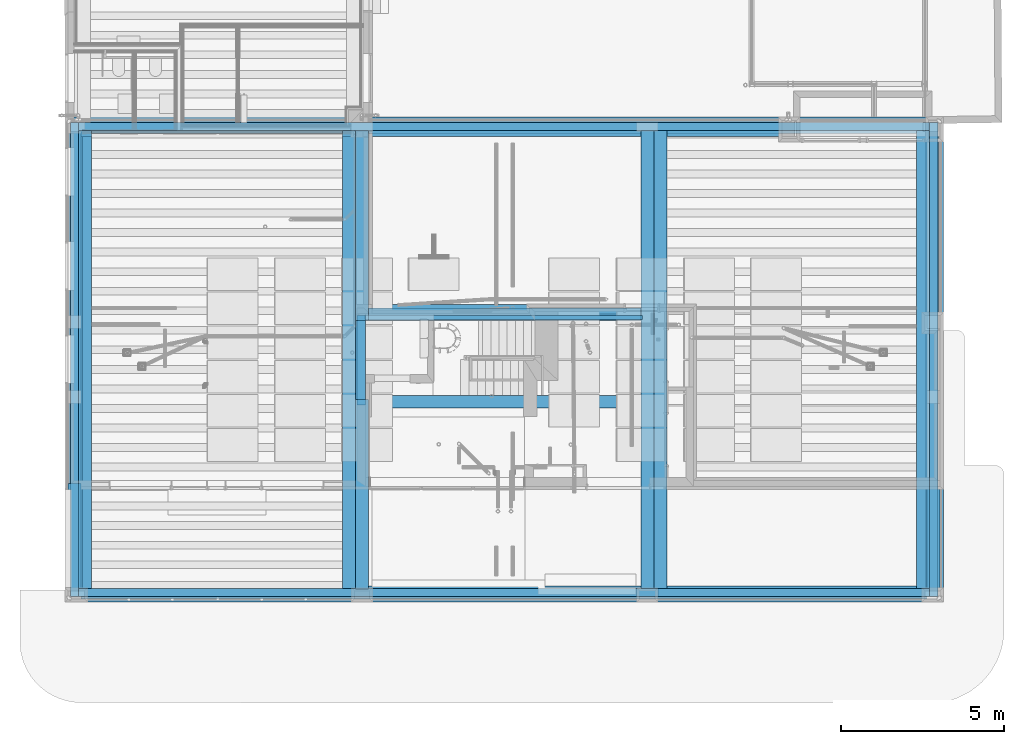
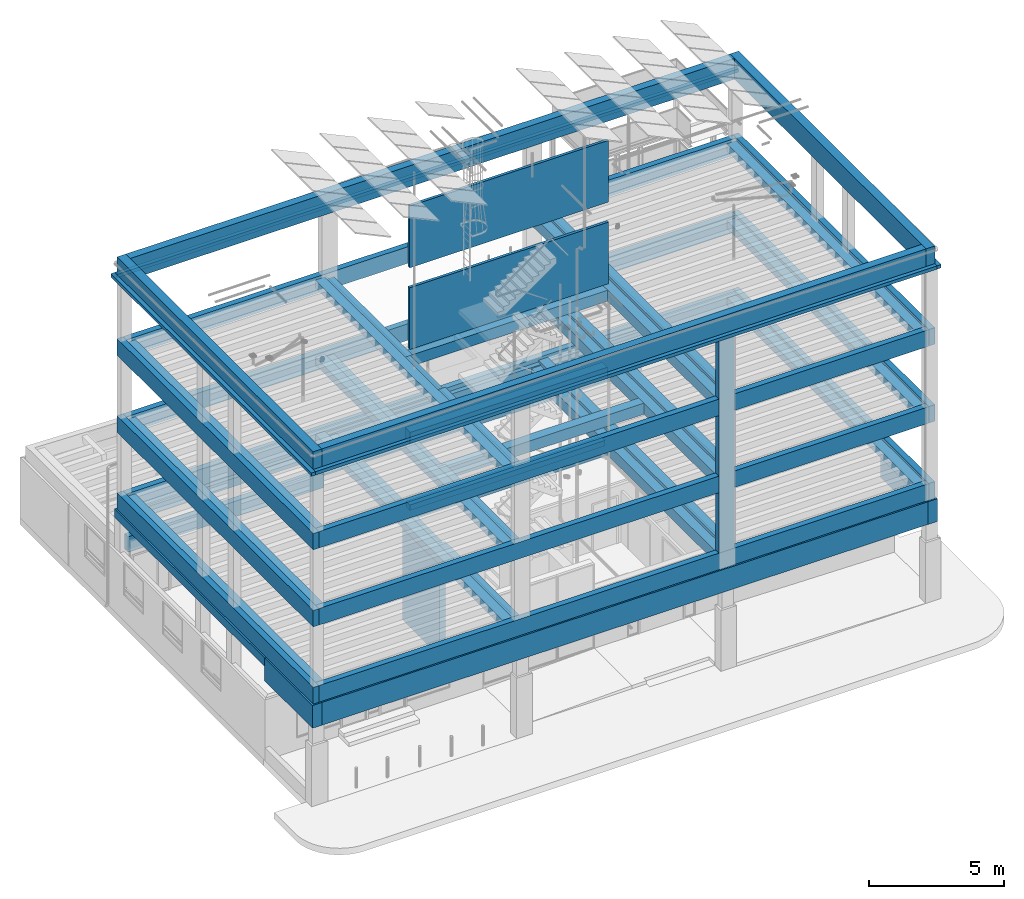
# One storey, part 4 of 106: 59 beams, 1 column.
"""IFC2X3 building model written with IfcOpenShell, lengths in metres."""

from ifc_helpers import new_model, entity, si_unit, converted_unit, derived_unit, money_unit, direction, frame, frame_2d, origin_with_axes, place, context, subcontext, project, spatial, rectangle, extrude, faceted_brep, material, type_object, element, save


model = new_model("IFC2X3")

# Units and contexts
model_context = context("Model", 3, precision=1e-05, world=origin_with_axes(), true_north=direction((0.0, 1.0)))
body_context = subcontext(model_context, "Body", "Model", "MODEL_VIEW", scale=1.0)
ifc_project = project(units=[si_unit("LENGTHUNIT", "METRE"), si_unit("AREAUNIT", "SQUARE_METRE"), si_unit("VOLUMEUNIT", "CUBIC_METRE"), si_unit("ABSORBEDDOSEUNIT", "GRAY"), si_unit("AMOUNTOFSUBSTANCEUNIT", "MOLE"), si_unit("DOSEEQUIVALENTUNIT", "SIEVERT"), si_unit("ELECTRICCAPACITANCEUNIT", "FARAD"), si_unit("ELECTRICCHARGEUNIT", "COULOMB"), si_unit("ELECTRICCONDUCTANCEUNIT", "SIEMENS"), si_unit("ELECTRICCURRENTUNIT", "AMPERE"), si_unit("ELECTRICRESISTANCEUNIT", "OHM"), si_unit("ELECTRICVOLTAGEUNIT", "VOLT"), si_unit("ENERGYUNIT", "JOULE"), si_unit("FORCEUNIT", "NEWTON"), si_unit("FREQUENCYUNIT", "HERTZ"), si_unit("ILLUMINANCEUNIT", "LUX"), si_unit("INDUCTANCEUNIT", "HENRY"), si_unit("LUMINOUSFLUXUNIT", "LUMEN"), si_unit("LUMINOUSINTENSITYUNIT", "CANDELA"), si_unit("MAGNETICFLUXDENSITYUNIT", "TESLA"), si_unit("MAGNETICFLUXUNIT", "WEBER"), si_unit("MASSUNIT", "GRAM"), converted_unit("PLANEANGLEUNIT", "degree", entity("IfcReal", 0.0174532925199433), si_unit("PLANEANGLEUNIT", "RADIAN"), dimensions=[0, 0, 0, 0, 0, 0, 0]), si_unit("POWERUNIT", "WATT"), si_unit("PRESSUREUNIT", "PASCAL"), si_unit("RADIOACTIVITYUNIT", "BECQUEREL"), si_unit("SOLIDANGLEUNIT", "STERADIAN"), si_unit("THERMODYNAMICTEMPERATUREUNIT", "KELVIN"), si_unit("TIMEUNIT", "SECOND"), derived_unit("ACCELERATIONUNIT", [(si_unit("LENGTHUNIT", "METRE"), 1), (si_unit("TIMEUNIT", "SECOND"), -2)]), derived_unit("ANGULARVELOCITYUNIT", [(converted_unit("PLANEANGLEUNIT", "degree", entity("IfcReal", 0.0174532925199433), si_unit("PLANEANGLEUNIT", "RADIAN"), dimensions=[0, 0, 0, 0, 0, 0, 0]), 1), (si_unit("TIMEUNIT", "SECOND"), -1)]), derived_unit("CURVATUREUNIT", [(converted_unit("PLANEANGLEUNIT", "degree", entity("IfcReal", 0.0174532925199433), si_unit("PLANEANGLEUNIT", "RADIAN"), dimensions=[0, 0, 0, 0, 0, 0, 0]), 1), (si_unit("LENGTHUNIT", "METRE"), -1)]), derived_unit("DYNAMICVISCOSITYUNIT", [(si_unit("PRESSUREUNIT", "PASCAL"), 1), (si_unit("TIMEUNIT", "SECOND"), 1)]), derived_unit("HEATFLUXDENSITYUNIT", [(si_unit("POWERUNIT", "WATT"), 1), (si_unit("LENGTHUNIT", "METRE"), -2)]), derived_unit("HEATINGVALUEUNIT", [(si_unit("ENERGYUNIT", "JOULE"), 1), (si_unit("MASSUNIT", "GRAM"), -1)]), derived_unit("INTEGERCOUNTRATEUNIT", [(si_unit("TIMEUNIT", "SECOND"), -1)]), derived_unit("IONCONCENTRATIONUNIT", [(si_unit("MASSUNIT", "GRAM"), 1), (si_unit("VOLUMEUNIT", "CUBIC_METRE"), -1)]), derived_unit("ISOTHERMALMOISTURECAPACITYUNIT", [(si_unit("VOLUMEUNIT", "CUBIC_METRE"), 1), (si_unit("MASSUNIT", "GRAM"), -1)]), derived_unit("KINEMATICVISCOSITYUNIT", [(si_unit("AREAUNIT", "SQUARE_METRE"), 1), (si_unit("TIMEUNIT", "SECOND"), -1)]), derived_unit("LINEARFORCEUNIT", [(si_unit("FORCEUNIT", "NEWTON"), 1), (si_unit("LENGTHUNIT", "METRE"), -1)]), derived_unit("LINEARMOMENTUNIT", [(si_unit("FORCEUNIT", "NEWTON"), 1), (si_unit("LENGTHUNIT", "METRE"), -1)]), derived_unit("LINEARSTIFFNESSUNIT", [(si_unit("FORCEUNIT", "NEWTON"), 1), (si_unit("LENGTHUNIT", "METRE"), -1)]), derived_unit("LINEARVELOCITYUNIT", [(si_unit("LENGTHUNIT", "METRE"), 1), (si_unit("TIMEUNIT", "SECOND"), -1)]), derived_unit("LUMINOUSINTENSITYDISTRIBUTIONUNIT", [(si_unit("LUMINOUSINTENSITYUNIT", "CANDELA"), 1), (si_unit("LUMINOUSFLUXUNIT", "LUMEN"), -1)]), derived_unit("MASSDENSITYUNIT", [(si_unit("MASSUNIT", "GRAM"), 1), (si_unit("VOLUMEUNIT", "CUBIC_METRE"), -1)]), derived_unit("MASSFLOWRATEUNIT", [(si_unit("MASSUNIT", "GRAM"), 1), (si_unit("TIMEUNIT", "SECOND"), -1)]), derived_unit("MASSPERLENGTHUNIT", [(si_unit("MASSUNIT", "GRAM"), 1), (si_unit("LENGTHUNIT", "METRE"), -1)]), derived_unit("MODULUSOFELASTICITYUNIT", [(si_unit("FORCEUNIT", "NEWTON"), 1), (si_unit("AREAUNIT", "SQUARE_METRE"), -1)]), derived_unit("MODULUSOFLINEARSUBGRADEREACTIONUNIT", [(si_unit("FORCEUNIT", "NEWTON"), 1), (si_unit("LENGTHUNIT", "METRE"), -2)]), derived_unit("MODULUSOFROTATIONALSUBGRADEREACTIONUNIT", [(si_unit("FORCEUNIT", "NEWTON"), 1), (si_unit("LENGTHUNIT", "METRE"), 1)]), derived_unit("MODULUSOFSUBGRADEREACTIONUNIT", [(si_unit("FORCEUNIT", "NEWTON"), 1), (si_unit("VOLUMEUNIT", "CUBIC_METRE"), -1)]), derived_unit("MOISTUREDIFFUSIVITYUNIT", [(si_unit("VOLUMEUNIT", "CUBIC_METRE"), 1), (si_unit("TIMEUNIT", "SECOND"), -1)]), derived_unit("MOLECULARWEIGHTUNIT", [(si_unit("MASSUNIT", "GRAM"), 1), (si_unit("AMOUNTOFSUBSTANCEUNIT", "MOLE"), -1)]), derived_unit("PLANARFORCEUNIT", [(si_unit("FORCEUNIT", "NEWTON"), 1), (si_unit("LENGTHUNIT", "METRE"), -2)]), derived_unit("ROTATIONALFREQUENCYUNIT", [(si_unit("TIMEUNIT", "SECOND"), -1)]), derived_unit("ROTATIONALMASSUNIT", [(si_unit("MASSUNIT", "GRAM"), 1), (si_unit("LENGTHUNIT", "METRE"), 2)]), derived_unit("ROTATIONALSTIFFNESSUNIT", [(si_unit("FORCEUNIT", "NEWTON"), 1), (si_unit("LENGTHUNIT", "METRE"), 1), (converted_unit("PLANEANGLEUNIT", "degree", entity("IfcReal", 0.0174532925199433), si_unit("PLANEANGLEUNIT", "RADIAN"), dimensions=[0, 0, 0, 0, 0, 0, 0]), -1)]), derived_unit("SECTIONAREAINTEGRALUNIT", [(si_unit("LENGTHUNIT", "METRE"), 5)]), derived_unit("SECTIONMODULUSUNIT", [(si_unit("LENGTHUNIT", "METRE"), 3)]), derived_unit("SHEARMODULUSUNIT", [(si_unit("FORCEUNIT", "NEWTON"), 1), (si_unit("AREAUNIT", "SQUARE_METRE"), -1)]), derived_unit("SOUNDPOWERUNIT", [(si_unit("ENERGYUNIT", "JOULE"), 1), (si_unit("TIMEUNIT", "SECOND"), -1)]), derived_unit("SPECIFICHEATCAPACITYUNIT", [(si_unit("FORCEUNIT", "NEWTON"), 1), (si_unit("MASSUNIT", "GRAM"), -1), (si_unit("THERMODYNAMICTEMPERATUREUNIT", "KELVIN"), -1)]), derived_unit("TEMPERATUREGRADIENTUNIT", [(si_unit("THERMODYNAMICTEMPERATUREUNIT", "KELVIN"), 1), (si_unit("LENGTHUNIT", "METRE"), -1)]), derived_unit("THERMALADMITTANCEUNIT", [(si_unit("POWERUNIT", "WATT"), 1), (si_unit("AREAUNIT", "SQUARE_METRE"), -1), (si_unit("THERMODYNAMICTEMPERATUREUNIT", "KELVIN"), -1)]), derived_unit("THERMALCONDUCTANCEUNIT", [(si_unit("POWERUNIT", "WATT"), 1), (si_unit("LENGTHUNIT", "METRE"), -1), (si_unit("THERMODYNAMICTEMPERATUREUNIT", "KELVIN"), -1)]), derived_unit("THERMALEXPANSIONCOEFFICIENTUNIT", [(si_unit("THERMODYNAMICTEMPERATUREUNIT", "KELVIN"), -1)]), derived_unit("THERMALRESISTANCEUNIT", [(si_unit("AREAUNIT", "SQUARE_METRE"), 1), (si_unit("POWERUNIT", "WATT"), -1)]), derived_unit("THERMALTRANSMITTANCEUNIT", [(si_unit("POWERUNIT", "WATT"), 1), (si_unit("AREAUNIT", "SQUARE_METRE"), -1), (si_unit("THERMODYNAMICTEMPERATUREUNIT", "KELVIN"), -1)]), derived_unit("TORQUEUNIT", [(si_unit("FORCEUNIT", "NEWTON"), 1), (si_unit("LENGTHUNIT", "METRE"), 1)]), derived_unit("VAPORPERMEABILITYUNIT", [(si_unit("MASSUNIT", "GRAM"), 1), (si_unit("TIMEUNIT", "SECOND"), -1)]), derived_unit("VOLUMETRICFLOWRATEUNIT", [(si_unit("VOLUMEUNIT", "CUBIC_METRE"), 1), (si_unit("TIMEUNIT", "SECOND"), -1)]), derived_unit("WARPINGCONSTANTUNIT", [(si_unit("LENGTHUNIT", "METRE"), 6)]), derived_unit("WARPINGMOMENTUNIT", [(si_unit("FORCEUNIT", "NEWTON"), 1), (si_unit("LENGTHUNIT", "METRE"), 2)]), money_unit("GBP")], contexts=[model_context])

# Site, building, storey
site_placement = place(None, origin_with_axes())
site = spatial("IfcSite", under=ifc_project, at=site_placement, Name="Site", CompositionType="ELEMENT")
building_placement = place(site_placement, origin_with_axes())
building = spatial("IfcBuilding", under=site, at=building_placement, Name="Building01", CompositionType="ELEMENT")
storey_placement = place(building_placement, origin_with_axes())
storey = spatial("IfcBuildingStorey", under=building, at=storey_placement, Name="GF", CompositionType="ELEMENT", Elevation=0.0)

# Column
ifc_material_1 = material(Name="A_BSUK_Columns_ReinforcedConcrete")
column_type = type_object("IfcColumnType", Name="A-Columns-Concrete", PredefinedType="COLUMN")
column_placement = place(storey_placement, frame((18.22, 0.4, 5.1), z_axis=(0.0, 0.0, 1.0), x_axis=(-1.0, 0.0, 0.0)))
element("IfcColumn", 1, at=column_placement, inside=storey, type_object=column_type, material=ifc_material_1, Name="A-Columns-Concrete", ObjectType="A-Columns-Concrete", context=body_context, shape_type="Brep", body=[
    faceted_brep([(0.67, 0.0, 0.0), (0.67, 0.0, 9.73), (0.0, 0.0, 9.73), (0.0, 0.0, 0.0), (0.67, 0.23, 0.0), (0.67, 0.23, 9.73), (0.0, 0.23, 0.0), (0.0, 0.23, 9.73)], [[[0, 1, 2, 3]], [[4, 5, 1, 0]], [[6, 7, 5, 4]], [[3, 2, 7, 6]], [[1, 5, 7, 2]], [[3, 6, 4, 0]]]),
])

# Beams
ifc_material_2 = material(Name="S_BSUK_Beams_PrecastConcrete")
beam_type_1 = type_object("IfcBeamType", Name="S-Beams-PrecastConcrete", PredefinedType="BEAM")
beam_1_placement = place(storey_placement, frame((17.685, 14.48, 11.33), z_axis=(0.0, -1.0, 0.0), x_axis=(1.0, 0.0, 0.0)))
element("IfcBeam", 2, at=beam_1_placement, inside=storey, type_object=beam_type_1, material=ifc_material_2, Name="S-Beams-PrecastConcrete", ObjectType="S-Beams-PrecastConcrete", context=body_context, shape_type="SweptSolid", body=[
    extrude(rectangle(XDim=0.5, YDim=0.4, at=frame_2d((0.2, 0.25), x_axis=(0.0, 1.0))), origin_with_axes(), (0.0, 0.0, 1.0), 14.06),
])
beam_2_placement = place(storey_placement, frame((8.925, 14.48, 11.33), z_axis=(0.0, -1.0, 0.0), x_axis=(1.0, 0.0, 0.0)))
element("IfcBeam", 3, at=beam_2_placement, inside=storey, type_object=beam_type_1, material=ifc_material_2, Name="S-Beams-PrecastConcrete", ObjectType="S-Beams-PrecastConcrete", context=body_context, shape_type="SweptSolid", body=[
    extrude(rectangle(XDim=0.5, YDim=0.4, at=frame_2d((0.2, 0.25), x_axis=(0.0, 1.0))), origin_with_axes(), (0.0, 0.0, 1.0), 5.829897),
])
beam_3_placement = place(storey_placement, frame((0.1, 14.8, 3.97), z_axis=(0.0, -1.0, 0.0), x_axis=(1.0, 0.0, 0.0)))
element("IfcBeam", 4, at=beam_3_placement, inside=storey, type_object=beam_type_1, material=ifc_material_2, Name="S-Beams-PrecastConcrete", ObjectType="S-Beams-PrecastConcrete", context=body_context, shape_type="SweptSolid", body=[
    extrude(rectangle(XDim=0.38, YDim=0.4, at=frame_2d((0.2, 0.19), x_axis=(0.0, 1.0))), origin_with_axes(), (0.0, 0.0, 1.0), 11.153538),
])
beam_4_placement = place(storey_placement, frame((22.41, 14.799999, 3.1), z_axis=(-1.0, 0.0, 0.0), x_axis=(0.0, -1.0, 0.0)))
element("IfcBeam", 5, at=beam_4_placement, inside=storey, type_object=beam_type_1, material=ifc_material_2, Name="S-Beams-PrecastConcrete", ObjectType="S-Beams-PrecastConcrete", context=body_context, shape_type="SweptSolid", body=[
    extrude(rectangle(XDim=1.8, YDim=0.5, at=frame_2d((0.25, 0.9), x_axis=(0.0, 1.0))), origin_with_axes(), (0.0, 0.0, 1.0), 13.62),
])
beam_5_placement = place(storey_placement, frame((0.1, 3.646462, 3.32), z_axis=(0.0, -1.0, 0.0), x_axis=(1.0, 0.0, 0.0)))
element("IfcBeam", 6, at=beam_5_placement, inside=storey, type_object=beam_type_1, material=ifc_material_2, Name="S-Beams-PrecastConcrete", ObjectType="S-Beams-PrecastConcrete", context=body_context, shape_type="SweptSolid", body=[
    extrude(rectangle(XDim=1.03, YDim=0.4, at=frame_2d((0.2, 0.515), x_axis=(0.0, 1.0))), origin_with_axes(), (0.0, 0.0, 1.0), 3.546462),
])
beam_6_placement = place(storey_placement, frame((0.5, 0.1, 3.32), z_axis=(1.0, 0.0, 0.0), x_axis=(0.0, 1.0, 0.0)))
element("IfcBeam", 7, at=beam_6_placement, inside=storey, type_object=beam_type_1, material=ifc_material_2, Name="S-Beams-PrecastConcrete", ObjectType="S-Beams-PrecastConcrete", context=body_context, shape_type="SweptSolid", body=[
    extrude(rectangle(XDim=1.03, YDim=0.3, at=frame_2d((0.15, 0.515), x_axis=(0.0, 1.0))), origin_with_axes(), (0.0, 0.0, 1.0), 25.98),
])
beam_7_placement = place(storey_placement, frame((26.48, 3.646462, 3.32), z_axis=(0.0, -1.0, 0.0), x_axis=(1.0, 0.0, 0.0)))
element("IfcBeam", 8, at=beam_7_placement, inside=storey, type_object=beam_type_1, material=ifc_material_2, Name="S-Beams-PrecastConcrete", ObjectType="S-Beams-PrecastConcrete", context=body_context, shape_type="SweptSolid", body=[
    extrude(rectangle(XDim=1.03, YDim=0.4, at=frame_2d((0.2, 0.515), x_axis=(0.0, 1.0))), origin_with_axes(), (0.0, 0.0, 1.0), 3.546462),
])
beam_8_placement = place(storey_placement, frame((8.79, 14.799999, 3.97), z_axis=(-1.0, 0.0, 0.0), x_axis=(0.0, -1.0, 0.0)))
element("IfcBeam", 9, at=beam_8_placement, inside=storey, type_object=beam_type_1, material=ifc_material_2, Name="S-Beams-PrecastConcrete", ObjectType="S-Beams-PrecastConcrete", context=body_context, shape_type="SweptSolid", body=[
    extrude(rectangle(XDim=0.38, YDim=0.5, at=frame_2d((0.25, 0.19), x_axis=(0.0, 1.0))), origin_with_axes(), (0.0, 0.0, 1.0), 8.29),
])
beam_9_placement = place(storey_placement, frame((9.325, 8.847854, 4.65), z_axis=(1.0, 0.0, 0.0), x_axis=(0.0, 1.0, 0.0)))
element("IfcBeam", 10, at=beam_9_placement, inside=storey, type_object=beam_type_1, material=ifc_material_2, Name="S-Beams-PrecastConcrete", ObjectType="S-Beams-PrecastConcrete", context=body_context, shape_type="SweptSolid", body=[
    extrude(rectangle(XDim=0.25, YDim=0.3, at=frame_2d((0.15, 0.125), x_axis=(0.0, 1.0))), origin_with_axes(), (0.0, 0.0, 1.0), 8.36),
])
beam_10_placement = place(storey_placement, frame((8.903038, 14.73, 2.435), z_axis=(-1.0, 0.0, 0.0), x_axis=(0.0, -1.0, 0.0)))
element("IfcBeam", 11, at=beam_10_placement, inside=storey, type_object=beam_type_1, material=ifc_material_2, Name="S-Beams-PrecastConcrete", ObjectType="S-Beams-PrecastConcrete", context=body_context, shape_type="SweptSolid", body=[
    extrude(rectangle(XDim=0.7, YDim=0.25, at=frame_2d((0.125, 0.35), x_axis=(0.0, 1.0))), origin_with_axes(), (0.0, 0.0, 1.0), 8.403038),
])
for number, where, z_axis, x_axis, name in (
    (12, (0.42, 14.48, 4.64), (0.0, -1.0, 0.0), (1.0, 0.0, 0.0), "S-Beams-PrecastConcrete"),
    (13, (8.525, 14.48, 4.64), (0.0, -1.0, 0.0), (1.0, 0.0, 0.0), "S-Beams-PrecastConcrete"),
):
    element("IfcBeam", number, at=place(storey_placement, frame(where, z_axis=z_axis, x_axis=x_axis)), inside=storey, type_object=beam_type_1, material=ifc_material_2, Name=name, ObjectType="S-Beams-PrecastConcrete", context=body_context, shape_type="SweptSolid", body=[
        extrude(rectangle(XDim=0.34, YDim=0.4, at=frame_2d((0.2, 0.17), x_axis=(0.0, 1.0))), origin_with_axes(), (0.0, 0.0, 1.0), 14.06),
    ])
beam_11_placement = place(storey_placement, frame((26.44, 14.73, 14.83), z_axis=(-1.0, 0.0, 0.0), x_axis=(0.0, -1.0, 0.0)))
element("IfcBeam", 14, at=beam_11_placement, inside=storey, type_object=beam_type_1, material=ifc_material_2, Name="S-Beams-PrecastConcrete", ObjectType="S-Beams-PrecastConcrete", context=body_context, shape_type="SweptSolid", body=[
    extrude(rectangle(XDim=0.95, YDim=0.33, at=frame_2d((0.165, 0.475), x_axis=(0.0, 1.0))), origin_with_axes(), (0.0, 0.0, 1.0), 25.9),
])
beam_12_placement = place(storey_placement, frame((26.44, 14.73, 14.83), z_axis=(0.0, -1.0, 0.0), x_axis=(1.0, 0.0, 0.0)))
element("IfcBeam", 15, at=beam_12_placement, inside=storey, type_object=beam_type_1, material=ifc_material_2, Name="S-Beams-PrecastConcrete", ObjectType="S-Beams-PrecastConcrete", context=body_context, shape_type="SweptSolid", body=[
    extrude(rectangle(XDim=0.95, YDim=0.37, at=frame_2d((0.185, 0.475), x_axis=(0.0, 1.0))), origin_with_axes(), (0.0, 0.0, 1.0), 14.56),
])
beam_13_placement = place(storey_placement, frame((26.44, 0.5, 14.83), z_axis=(-1.0, 0.0, 0.0), x_axis=(0.0, -1.0, 0.0)))
element("IfcBeam", 16, at=beam_13_placement, inside=storey, type_object=beam_type_1, material=ifc_material_2, Name="S-Beams-PrecastConcrete", ObjectType="S-Beams-PrecastConcrete", context=body_context, shape_type="SweptSolid", body=[
    extrude(rectangle(XDim=0.95, YDim=0.33, at=frame_2d((0.165, 0.475), x_axis=(0.0, 1.0))), origin_with_axes(), (0.0, 0.0, 1.0), 25.9),
])
beam_14_placement = place(storey_placement, frame((0.17, 14.73, 14.83), z_axis=(0.0, -1.0, 0.0), x_axis=(1.0, 0.0, 0.0)))
element("IfcBeam", 17, at=beam_14_placement, inside=storey, type_object=beam_type_1, material=ifc_material_2, Name="S-Beams-PrecastConcrete", ObjectType="S-Beams-PrecastConcrete", context=body_context, shape_type="SweptSolid", body=[
    extrude(rectangle(XDim=0.95, YDim=0.37, at=frame_2d((0.185, 0.475), x_axis=(0.0, 1.0))), origin_with_axes(), (0.0, 0.0, 1.0), 14.56),
])
beam_15_placement = place(storey_placement, frame((17.685, 9.04, 11.33), z_axis=(-1.0, 0.0, 0.0), x_axis=(0.0, -1.0, 0.0)))
element("IfcBeam", 18, at=beam_15_placement, inside=storey, type_object=beam_type_1, material=ifc_material_2, Name="S-Beams-PrecastConcrete", ObjectType="S-Beams-PrecastConcrete", context=body_context, shape_type="SweptSolid", body=[
    extrude(rectangle(XDim=0.5, YDim=0.39, at=frame_2d((0.195, 0.25), x_axis=(0.0, 1.0))), origin_with_axes(), (0.0, 0.0, 1.0), 8.46),
])
beam_16_placement = place(storey_placement, frame((8.925, 6.229897, 11.33), z_axis=(0.0, -1.0, 0.0), x_axis=(1.0, 0.0, 0.0)))
element("IfcBeam", 19, at=beam_16_placement, inside=storey, type_object=beam_type_1, material=ifc_material_2, Name="S-Beams-PrecastConcrete", ObjectType="S-Beams-PrecastConcrete", context=body_context, shape_type="SweptSolid", body=[
    extrude(rectangle(XDim=0.5, YDim=0.4, at=frame_2d((0.2, 0.25), x_axis=(0.0, 1.0))), origin_with_axes(), (0.0, 0.0, 1.0), 5.829897),
])
beam_17_placement = place(storey_placement, frame((8.925, 8.650103, 11.33), z_axis=(0.0, -1.0, 0.0), x_axis=(1.0, 0.0, 0.0)))
element("IfcBeam", 20, at=beam_17_placement, inside=storey, type_object=beam_type_1, material=ifc_material_2, Name="S-Beams-PrecastConcrete", ObjectType="S-Beams-PrecastConcrete", context=body_context, shape_type="SweptSolid", body=[
    extrude(rectangle(XDim=0.5, YDim=0.3, at=frame_2d((0.15, 0.25), x_axis=(0.0, 1.0))), origin_with_axes(), (0.0, 0.0, 1.0), 2.420206),
])
beam_18_placement = place(storey_placement, frame((8.925, 14.48, 7.84), z_axis=(0.0, -1.0, 0.0), x_axis=(1.0, 0.0, 0.0)))
element("IfcBeam", 21, at=beam_18_placement, inside=storey, type_object=beam_type_1, material=ifc_material_2, Name="S-Beams-PrecastConcrete", ObjectType="S-Beams-PrecastConcrete", context=body_context, shape_type="SweptSolid", body=[
    extrude(rectangle(XDim=0.5, YDim=0.4, at=frame_2d((0.2, 0.25), x_axis=(0.0, 1.0))), origin_with_axes(), (0.0, 0.0, 1.0), 5.829897),
])
beam_19_placement = place(storey_placement, frame((8.925, 8.650103, 7.84), z_axis=(0.0, -1.0, 0.0), x_axis=(1.0, 0.0, 0.0)))
element("IfcBeam", 22, at=beam_19_placement, inside=storey, type_object=beam_type_1, material=ifc_material_2, Name="S-Beams-PrecastConcrete", ObjectType="S-Beams-PrecastConcrete", context=body_context, shape_type="SweptSolid", body=[
    extrude(rectangle(XDim=0.5, YDim=0.3, at=frame_2d((0.15, 0.25), x_axis=(0.0, 1.0))), origin_with_axes(), (0.0, 0.0, 1.0), 2.420206),
])
for number, where, z_axis, x_axis, name in (
    (23, (8.925, 6.229897, 7.84), (0.0, -1.0, 0.0), (1.0, 0.0, 0.0), "S-Beams-PrecastConcrete"),
    (24, (8.925, 14.48, 4.35), (0.0, -1.0, 0.0), (1.0, 0.0, 0.0), "S-Beams-PrecastConcrete"),
):
    element("IfcBeam", number, at=place(storey_placement, frame(where, z_axis=z_axis, x_axis=x_axis)), inside=storey, type_object=beam_type_1, material=ifc_material_2, Name=name, ObjectType="S-Beams-PrecastConcrete", context=body_context, shape_type="SweptSolid", body=[
        extrude(rectangle(XDim=0.5, YDim=0.4, at=frame_2d((0.2, 0.25), x_axis=(0.0, 1.0))), origin_with_axes(), (0.0, 0.0, 1.0), 5.829897),
    ])
beam_20_placement = place(storey_placement, frame((8.925, 8.650103, 4.35), z_axis=(0.0, -1.0, 0.0), x_axis=(1.0, 0.0, 0.0)))
element("IfcBeam", 25, at=beam_20_placement, inside=storey, type_object=beam_type_1, material=ifc_material_2, Name="S-Beams-PrecastConcrete", ObjectType="S-Beams-PrecastConcrete", context=body_context, shape_type="SweptSolid", body=[
    extrude(rectangle(XDim=0.5, YDim=0.3, at=frame_2d((0.15, 0.25), x_axis=(0.0, 1.0))), origin_with_axes(), (0.0, 0.0, 1.0), 2.420206),
])
beam_21_placement = place(storey_placement, frame((8.925, 6.229897, 4.35), z_axis=(0.0, -1.0, 0.0), x_axis=(1.0, 0.0, 0.0)))
element("IfcBeam", 26, at=beam_21_placement, inside=storey, type_object=beam_type_1, material=ifc_material_2, Name="S-Beams-PrecastConcrete", ObjectType="S-Beams-PrecastConcrete", context=body_context, shape_type="SweptSolid", body=[
    extrude(rectangle(XDim=0.5, YDim=0.4, at=frame_2d((0.2, 0.25), x_axis=(0.0, 1.0))), origin_with_axes(), (0.0, 0.0, 1.0), 5.829897),
])
for number, where, z_axis, x_axis, name in (
    (27, (17.685, 9.04, 7.84), (-1.0, 0.0, 0.0), (0.0, -1.0, 0.0), "S-Beams-PrecastConcrete"),
    (28, (17.685, 9.04, 4.35), (-1.0, 0.0, 0.0), (0.0, -1.0, 0.0), "S-Beams-PrecastConcrete"),
):
    element("IfcBeam", number, at=place(storey_placement, frame(where, z_axis=z_axis, x_axis=x_axis)), inside=storey, type_object=beam_type_1, material=ifc_material_2, Name=name, ObjectType="S-Beams-PrecastConcrete", context=body_context, shape_type="SweptSolid", body=[
        extrude(rectangle(XDim=0.5, YDim=0.39, at=frame_2d((0.195, 0.25), x_axis=(0.0, 1.0))), origin_with_axes(), (0.0, 0.0, 1.0), 8.46),
    ])
for number, where, z_axis, x_axis, name in (
    (29, (17.685, 14.48, 7.84), (0.0, -1.0, 0.0), (1.0, 0.0, 0.0), "S-Beams-PrecastConcrete"),
    (30, (17.685, 14.48, 4.35), (0.0, -1.0, 0.0), (1.0, 0.0, 0.0), "S-Beams-PrecastConcrete"),
):
    element("IfcBeam", number, at=place(storey_placement, frame(where, z_axis=z_axis, x_axis=x_axis)), inside=storey, type_object=beam_type_1, material=ifc_material_2, Name=name, ObjectType="S-Beams-PrecastConcrete", context=body_context, shape_type="SweptSolid", body=[
        extrude(rectangle(XDim=0.5, YDim=0.4, at=frame_2d((0.2, 0.25), x_axis=(0.0, 1.0))), origin_with_axes(), (0.0, 0.0, 1.0), 14.06),
    ])
beam_22_placement = place(storey_placement, frame((17.685, 6.35, 7.84), z_axis=(-1.0, 0.0, 0.0), x_axis=(0.0, -1.0, 0.0)))
element("IfcBeam", 31, at=beam_22_placement, inside=storey, type_object=beam_type_1, material=ifc_material_2, Name="S-Beams-PrecastConcrete", ObjectType="S-Beams-PrecastConcrete", context=body_context, shape_type="SweptSolid", body=[
    extrude(rectangle(XDim=0.5, YDim=0.39, at=frame_2d((0.195, 0.25), x_axis=(0.0, 1.0))), origin_with_axes(), (0.0, 0.0, 1.0), 8.46),
])
beam_23_placement = place(storey_placement, frame((8.975, 8.8, -0.145), z_axis=(0.0, -1.0, 0.0), x_axis=(1.0, 0.0, 0.0)))
element("IfcBeam", 32, at=beam_23_placement, inside=storey, type_object=beam_type_1, material=ifc_material_2, Name="S-Beams-PrecastConcrete", ObjectType="S-Beams-PrecastConcrete", context=body_context, shape_type="SweptSolid", body=[
    extrude(rectangle(XDim=4.495, YDim=0.25, at=frame_2d((0.125, 2.2475), x_axis=(0.0, 1.0))), origin_with_axes(), (0.0, 0.0, 1.0), 2.75),
])
beam_24_placement = place(storey_placement, frame((26.56, 0.42, 7.84), z_axis=(-1.0, 0.0, 0.0), x_axis=(0.0, -1.0, 0.0)))
element("IfcBeam", 33, at=beam_24_placement, inside=storey, type_object=beam_type_1, material=ifc_material_2, Name="S-Beams-PrecastConcrete", ObjectType="S-Beams-PrecastConcrete", context=body_context, shape_type="SweptSolid", body=[
    extrude(rectangle(XDim=0.75, YDim=0.25, at=frame_2d((0.125, 0.375), x_axis=(0.0, 1.0))), origin_with_axes(), (0.0, 0.0, 1.0), 26.14),
])
beam_25_placement = place(storey_placement, frame((26.56, 14.73, 7.84), z_axis=(0.0, -1.0, 0.0), x_axis=(1.0, 0.0, 0.0)))
element("IfcBeam", 34, at=beam_25_placement, inside=storey, type_object=beam_type_1, material=ifc_material_2, Name="S-Beams-PrecastConcrete", ObjectType="S-Beams-PrecastConcrete", context=body_context, shape_type="SweptSolid", body=[
    extrude(rectangle(XDim=0.75, YDim=0.25, at=frame_2d((0.125, 0.375), x_axis=(0.0, 1.0))), origin_with_axes(), (0.0, 0.0, 1.0), 14.56),
])
beam_26_placement = place(storey_placement, frame((26.56, 14.73, 7.84), z_axis=(-1.0, 0.0, 0.0), x_axis=(0.0, -1.0, 0.0)))
element("IfcBeam", 35, at=beam_26_placement, inside=storey, type_object=beam_type_1, material=ifc_material_2, Name="S-Beams-PrecastConcrete", ObjectType="S-Beams-PrecastConcrete", context=body_context, shape_type="SweptSolid", body=[
    extrude(rectangle(XDim=0.75, YDim=0.25, at=frame_2d((0.125, 0.375), x_axis=(0.0, 1.0))), origin_with_axes(), (0.0, 0.0, 1.0), 26.14),
])
for number, where, z_axis, x_axis, name in (
    (36, (0.17, 14.73, 7.84), (0.0, -1.0, 0.0), (1.0, 0.0, 0.0), "S-Beams-PrecastConcrete"),
    (37, (0.17, 14.73, 4.35), (0.0, -1.0, 0.0), (1.0, 0.0, 0.0), "S-Beams-PrecastConcrete"),
):
    element("IfcBeam", number, at=place(storey_placement, frame(where, z_axis=z_axis, x_axis=x_axis)), inside=storey, type_object=beam_type_1, material=ifc_material_2, Name=name, ObjectType="S-Beams-PrecastConcrete", context=body_context, shape_type="SweptSolid", body=[
        extrude(rectangle(XDim=0.75, YDim=0.25, at=frame_2d((0.125, 0.375), x_axis=(0.0, 1.0))), origin_with_axes(), (0.0, 0.0, 1.0), 14.56),
    ])
for number, where, z_axis, x_axis, name in (
    (38, (26.56, 14.73, 4.35), (-1.0, 0.0, 0.0), (0.0, -1.0, 0.0), "S-Beams-PrecastConcrete"),
    (39, (26.56, 0.42, 4.35), (-1.0, 0.0, 0.0), (0.0, -1.0, 0.0), "S-Beams-PrecastConcrete"),
):
    element("IfcBeam", number, at=place(storey_placement, frame(where, z_axis=z_axis, x_axis=x_axis)), inside=storey, type_object=beam_type_1, material=ifc_material_2, Name=name, ObjectType="S-Beams-PrecastConcrete", context=body_context, shape_type="SweptSolid", body=[
        extrude(rectangle(XDim=0.75, YDim=0.25, at=frame_2d((0.125, 0.375), x_axis=(0.0, 1.0))), origin_with_axes(), (0.0, 0.0, 1.0), 26.14),
    ])
beam_27_placement = place(storey_placement, frame((26.56, 14.73, 4.35), z_axis=(0.0, -1.0, 0.0), x_axis=(1.0, 0.0, 0.0)))
element("IfcBeam", 40, at=beam_27_placement, inside=storey, type_object=beam_type_1, material=ifc_material_2, Name="S-Beams-PrecastConcrete", ObjectType="S-Beams-PrecastConcrete", context=body_context, shape_type="SweptSolid", body=[
    extrude(rectangle(XDim=0.75, YDim=0.25, at=frame_2d((0.125, 0.375), x_axis=(0.0, 1.0))), origin_with_axes(), (0.0, 0.0, 1.0), 14.56),
])
beam_28_placement = place(storey_placement, frame((26.56, 0.42, 11.33), z_axis=(-1.0, 0.0, 0.0), x_axis=(0.0, -1.0, 0.0)))
element("IfcBeam", 41, at=beam_28_placement, inside=storey, type_object=beam_type_1, material=ifc_material_2, Name="S-Beams-PrecastConcrete", ObjectType="S-Beams-PrecastConcrete", context=body_context, shape_type="SweptSolid", body=[
    extrude(rectangle(XDim=0.75, YDim=0.25, at=frame_2d((0.125, 0.375), x_axis=(0.0, 1.0))), origin_with_axes(), (0.0, 0.0, 1.0), 26.14),
])
beam_29_placement = place(storey_placement, frame((0.17, 14.73, 11.33), z_axis=(0.0, -1.0, 0.0), x_axis=(1.0, 0.0, 0.0)))
element("IfcBeam", 42, at=beam_29_placement, inside=storey, type_object=beam_type_1, material=ifc_material_2, Name="S-Beams-PrecastConcrete", ObjectType="S-Beams-PrecastConcrete", context=body_context, shape_type="SweptSolid", body=[
    extrude(rectangle(XDim=0.75, YDim=0.25, at=frame_2d((0.125, 0.375), x_axis=(0.0, 1.0))), origin_with_axes(), (0.0, 0.0, 1.0), 14.56),
])
beam_30_placement = place(storey_placement, frame((26.56, 14.73, 11.33), z_axis=(-1.0, 0.0, 0.0), x_axis=(0.0, -1.0, 0.0)))
element("IfcBeam", 43, at=beam_30_placement, inside=storey, type_object=beam_type_1, material=ifc_material_2, Name="S-Beams-PrecastConcrete", ObjectType="S-Beams-PrecastConcrete", context=body_context, shape_type="SweptSolid", body=[
    extrude(rectangle(XDim=0.75, YDim=0.25, at=frame_2d((0.125, 0.375), x_axis=(0.0, 1.0))), origin_with_axes(), (0.0, 0.0, 1.0), 26.14),
])
beam_31_placement = place(storey_placement, frame((26.56, 14.73, 11.33), z_axis=(0.0, -1.0, 0.0), x_axis=(1.0, 0.0, 0.0)))
element("IfcBeam", 44, at=beam_31_placement, inside=storey, type_object=beam_type_1, material=ifc_material_2, Name="S-Beams-PrecastConcrete", ObjectType="S-Beams-PrecastConcrete", context=body_context, shape_type="SweptSolid", body=[
    extrude(rectangle(XDim=0.75, YDim=0.25, at=frame_2d((0.125, 0.375), x_axis=(0.0, 1.0))), origin_with_axes(), (0.0, 0.0, 1.0), 14.56),
])
for number, where, z_axis, x_axis, name in (
    (45, (26.16, 14.48, 4.64), (0.0, -1.0, 0.0), (1.0, 0.0, 0.0), "S-Beams-PrecastConcrete"),
    (46, (18.085, 14.48, 4.64), (0.0, -1.0, 0.0), (1.0, 0.0, 0.0), "S-Beams-PrecastConcrete"),
    (47, (0.42, 14.48, 8.13), (0.0, -1.0, 0.0), (1.0, 0.0, 0.0), "S-Beams-PrecastConcrete"),
    (48, (8.525, 14.48, 8.13), (0.0, -1.0, 0.0), (1.0, 0.0, 0.0), "S-Beams-PrecastConcrete"),
    (49, (26.16, 14.48, 8.13), (0.0, -1.0, 0.0), (1.0, 0.0, 0.0), "S-Beams-PrecastConcrete"),
    (50, (18.085, 14.48, 8.13), (0.0, -1.0, 0.0), (1.0, 0.0, 0.0), "S-Beams-PrecastConcrete"),
    (51, (0.42, 14.48, 11.62), (0.0, -1.0, 0.0), (1.0, 0.0, 0.0), "S-Beams-PrecastConcrete"),
    (52, (8.525, 14.48, 11.62), (0.0, -1.0, 0.0), (1.0, 0.0, 0.0), "S-Beams-PrecastConcrete"),
    (53, (26.16, 14.48, 11.62), (0.0, -1.0, 0.0), (1.0, 0.0, 0.0), "S-Beams-PrecastConcrete"),
    (54, (18.085, 14.48, 11.62), (0.0, -1.0, 0.0), (1.0, 0.0, 0.0), "S-Beams-PrecastConcrete"),
):
    element("IfcBeam", number, at=place(storey_placement, frame(where, z_axis=z_axis, x_axis=x_axis)), inside=storey, type_object=beam_type_1, material=ifc_material_2, Name=name, ObjectType="S-Beams-PrecastConcrete", context=body_context, shape_type="SweptSolid", body=[
        extrude(rectangle(XDim=0.34, YDim=0.4, at=frame_2d((0.2, 0.17), x_axis=(0.0, 1.0))), origin_with_axes(), (0.0, 0.0, 1.0), 14.06),
    ])
beam_32_placement = place(storey_placement, frame((26.81, 14.9, 14.83), z_axis=(-1.0, 0.0, 0.0), x_axis=(0.0, -1.0, 0.0)))
element("IfcBeam", 55, at=beam_32_placement, inside=storey, type_object=beam_type_1, material=ifc_material_2, Name="S-Beams-PrecastConcrete", ObjectType="S-Beams-PrecastConcrete", context=body_context, shape_type="SweptSolid", body=[
    extrude(rectangle(XDim=0.15, YDim=0.17, at=frame_2d((0.085, 0.075), x_axis=(0.0, 1.0))), origin_with_axes(), (0.0, 0.0, 1.0), 26.64),
])
for number, where, z_axis, x_axis, name in (
    (56, (26.81, 14.9, 14.83), (0.0, -1.0, 0.0), (1.0, 0.0, 0.0), "S-Beams-PrecastConcrete"),
    (57, (0.17, 0.0, 14.83), (0.0, 1.0, 0.0), (-1.0, 0.0, 0.0), "S-Beams-PrecastConcrete"),
):
    element("IfcBeam", number, at=place(storey_placement, frame(where, z_axis=z_axis, x_axis=x_axis)), inside=storey, type_object=beam_type_1, material=ifc_material_2, Name=name, ObjectType="S-Beams-PrecastConcrete", context=body_context, shape_type="SweptSolid", body=[
        extrude(rectangle(XDim=0.15, YDim=0.17, at=frame_2d((0.085, 0.075), x_axis=(0.0, 1.0))), origin_with_axes(), (0.0, 0.0, 1.0), 14.9),
    ])
beam_33_placement = place(storey_placement, frame((0.17, 0.0, 14.83), z_axis=(1.0, 0.0, 0.0), x_axis=(0.0, 1.0, 0.0)))
element("IfcBeam", 58, at=beam_33_placement, inside=storey, type_object=beam_type_1, material=ifc_material_2, Name="S-Beams-PrecastConcrete", ObjectType="S-Beams-PrecastConcrete", context=body_context, shape_type="SweptSolid", body=[
    extrude(rectangle(XDim=0.15, YDim=0.17, at=frame_2d((0.085, 0.075), x_axis=(0.0, 1.0))), origin_with_axes(), (0.0, 0.0, 1.0), 26.64),
])
beam_type_2 = type_object("IfcBeamType", Name="S-Beams:S_BSUK_Beams_PrecastConcrete", PredefinedType="NOTDEFINED")
for number, where, z_axis, x_axis, name in (
    (59, (9.22, 8.68, 15.78), (1.0, 0.0, 0.0), (0.0, 1.0, 0.0), "S-Beams--S_BSUK_Beams_PrecastConcrete"),
    (60, (9.22, 8.68, 12.08), (1.0, 0.0, 0.0), (0.0, 1.0, 0.0), "S-Beams--S_BSUK_Beams_PrecastConcrete"),
):
    element("IfcBeam", number, at=place(storey_placement, frame(where, z_axis=z_axis, x_axis=x_axis)), inside=storey, type_object=beam_type_2, material=ifc_material_2, Name=name, ObjectType="S-Beams:S_BSUK_Beams_PrecastConcrete", context=body_context, shape_type="SweptSolid", body=[
        extrude(rectangle(XDim=2.8, YDim=0.12, at=frame_2d((0.06, 1.4), x_axis=(0.0, 1.0))), origin_with_axes(), (0.0, 0.0, 1.0), 8.520864),
    ])

save(model, "model.ifc")
